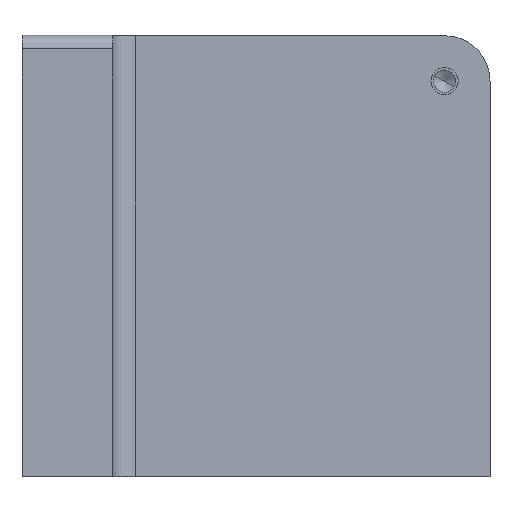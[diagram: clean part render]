
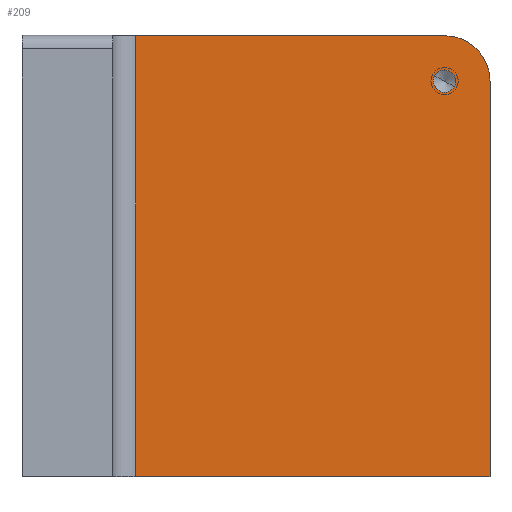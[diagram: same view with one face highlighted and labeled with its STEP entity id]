
A CAD part, top view. The second image highlights one B-rep face of the part: STEP entity #209.
In plain terms, the highlighted planar face has unit normal (0, 0, 1).
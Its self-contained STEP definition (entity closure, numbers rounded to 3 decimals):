
#144=CARTESIAN_POINT('Axis2P3D Location',(0.,0.,20.)) ;
#149=CARTESIAN_POINT('Line Origine',(64.,0.,20.)) ;
#153=CARTESIAN_POINT('Vertex',(25.,0.,20.)) ;
#155=CARTESIAN_POINT('Vertex',(103.,0.,20.)) ;
#158=CARTESIAN_POINT('Line Origine',(103.,43.5,20.)) ;
#162=CARTESIAN_POINT('Vertex',(103.,87.,20.)) ;
#165=CARTESIAN_POINT('Axis2P3D Location',(93.,87.,20.)) ;
#169=CARTESIAN_POINT('Vertex',(93.,97.,20.)) ;
#172=CARTESIAN_POINT('Line Origine',(59.,97.,20.)) ;
#176=CARTESIAN_POINT('Vertex',(25.,97.,20.)) ;
#179=CARTESIAN_POINT('Line Origine',(25.,48.5,20.)) ;
#191=CARTESIAN_POINT('Axis2P3D Location',(93.,87.,20.)) ;
#195=CARTESIAN_POINT('Vertex',(90.842,88.179,20.)) ;
#197=CARTESIAN_POINT('Vertex',(95.158,85.821,20.)) ;
#200=CARTESIAN_POINT('Axis2P3D Location',(93.,87.,20.)) ;
#145=DIRECTION('Axis2P3D Direction',(0.,0.,1.)) ;
#146=DIRECTION('Axis2P3D XDirection',(1.,0.,0.)) ;
#150=DIRECTION('Vector Direction',(1.,0.,0.)) ;
#159=DIRECTION('Vector Direction',(0.,1.,0.)) ;
#166=DIRECTION('Axis2P3D Direction',(0.,0.,1.)) ;
#173=DIRECTION('Vector Direction',(-1.,0.,0.)) ;
#180=DIRECTION('Vector Direction',(0.,-1.,0.)) ;
#192=DIRECTION('Axis2P3D Direction',(0.,0.,1.)) ;
#201=DIRECTION('Axis2P3D Direction',(0.,0.,1.)) ;
#147=AXIS2_PLACEMENT_3D('Plane Axis2P3D',#144,#145,#146) ;
#167=AXIS2_PLACEMENT_3D('Circle Axis2P3D',#165,#166,$) ;
#193=AXIS2_PLACEMENT_3D('Circle Axis2P3D',#191,#192,$) ;
#202=AXIS2_PLACEMENT_3D('Circle Axis2P3D',#200,#201,$) ;
#185=ORIENTED_EDGE('',*,*,#157,.T.) ;
#186=ORIENTED_EDGE('',*,*,#164,.T.) ;
#187=ORIENTED_EDGE('',*,*,#171,.T.) ;
#188=ORIENTED_EDGE('',*,*,#178,.T.) ;
#189=ORIENTED_EDGE('',*,*,#183,.F.) ;
#206=ORIENTED_EDGE('',*,*,#199,.F.) ;
#207=ORIENTED_EDGE('',*,*,#204,.F.) ;
#208=FACE_BOUND('',#205,.T.) ;
#151=VECTOR('Line Direction',#150,1.) ;
#160=VECTOR('Line Direction',#159,1.) ;
#174=VECTOR('Line Direction',#173,1.) ;
#181=VECTOR('Line Direction',#180,1.) ;
#209=ADVANCED_FACE('PartBody',(#190,#208),#148,.T.) ;
#168=CIRCLE('generated circle',#167,10.) ;
#194=CIRCLE('generated circle',#193,2.459) ;
#203=CIRCLE('generated circle',#202,2.459) ;
#157=EDGE_CURVE('',#154,#156,#152,.T.) ;
#164=EDGE_CURVE('',#156,#163,#161,.T.) ;
#171=EDGE_CURVE('',#163,#170,#168,.T.) ;
#178=EDGE_CURVE('',#170,#177,#175,.T.) ;
#183=EDGE_CURVE('',#154,#177,#182,.F.) ;
#199=EDGE_CURVE('',#196,#198,#194,.T.) ;
#204=EDGE_CURVE('',#198,#196,#203,.T.) ;
#184=EDGE_LOOP('',(#185,#186,#187,#188,#189)) ;
#205=EDGE_LOOP('',(#206,#207)) ;
#190=FACE_OUTER_BOUND('',#184,.T.) ;
#152=LINE('Line',#149,#151) ;
#161=LINE('Line',#158,#160) ;
#175=LINE('Line',#172,#174) ;
#182=LINE('Line',#179,#181) ;
#148=PLANE('',#147) ;
#154=VERTEX_POINT('',#153) ;
#156=VERTEX_POINT('',#155) ;
#163=VERTEX_POINT('',#162) ;
#170=VERTEX_POINT('',#169) ;
#177=VERTEX_POINT('',#176) ;
#196=VERTEX_POINT('',#195) ;
#198=VERTEX_POINT('',#197) ;
